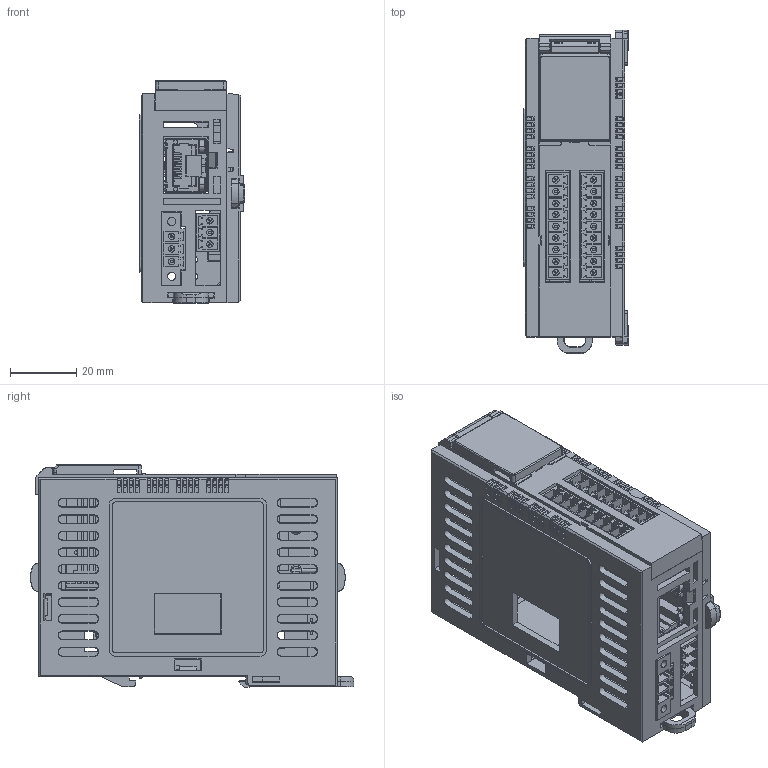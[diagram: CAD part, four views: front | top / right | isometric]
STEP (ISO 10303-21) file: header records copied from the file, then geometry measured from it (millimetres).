
FILE_DESCRIPTION (( 'STEP AP203' ), '1' );
FILE_NAME ('CM3-SP16MDR.STEP', '2017-12-05T08:33:59', ( '' ), ( '' ), 'SwSTEP 2.0', 'SolidWorks 2017', '' );
FILE_SCHEMA (( 'CONFIG_CONTROL_DESIGN' ));
Length unit declared in the file: millimetre
Products named in the file (15): C_1; G_1; A_1; 10-5_1; E_1; 10-6_1; H_1; 9-1_1; 10-1; D_1; CM3-SP16MDR; B_1; J_1; F_1; I_1
Assembly tree (18 placements, depth 2):
  CM3-SP16MDR
    A_1
    B_1  x2
    C_1
    D_1
    E_1
    F_1
    G_1  x2
    H_1
    I_1  x2
    J_1  x2
    9-1_1
    10-1
    10-5_1
    10-6_1
Bounding box: 31.7 x 97.47 x 67.2 mm (x, y, z)
Volume: 39206 mm3; surface area: 67265.9 mm2
Topology: 91 solids, 91 shells, 6222 faces, 17178 edges, 11181 vertices
Faces by surface type: plane 5327, cylinder 734, bspline 118, cone 39, torus 4
Entity records: 176618 total; most frequent: CARTESIAN_POINT 36826, ORIENTED_EDGE 29872, DIRECTION 26428, EDGE_CURVE 14936, VECTOR 13164, LINE 13164, VERTEX_POINT 9747, AXIS2_PLACEMENT_3D 6632
